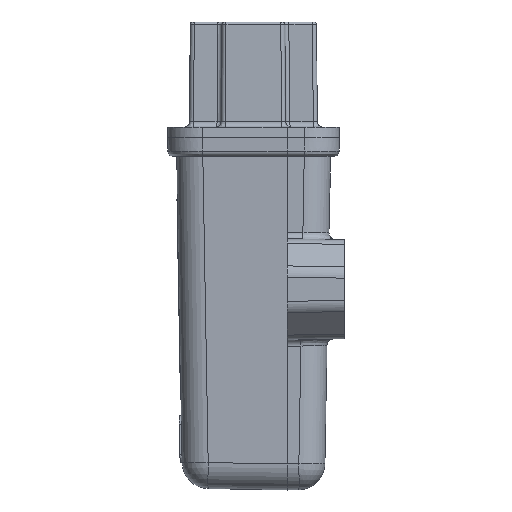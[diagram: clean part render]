
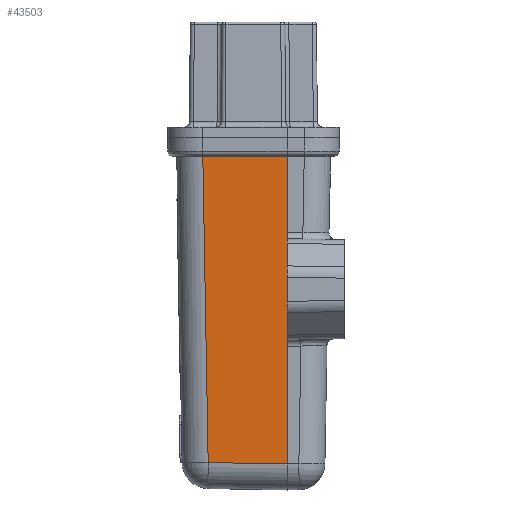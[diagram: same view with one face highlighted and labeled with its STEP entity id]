
A CAD part, left-side view. The second image highlights one B-rep face of the part: STEP entity #43503.
In plain terms, the highlighted planar face has unit normal (-1, 0.018, -0.017).
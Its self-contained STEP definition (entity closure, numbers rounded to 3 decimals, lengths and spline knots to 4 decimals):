
#2443=PLANE('',#45468);
#4164=FACE_OUTER_BOUND('',#6597,.T.);
#6597=EDGE_LOOP('',(#34732,#34733,#34734,#34735,#34736,#34737));
#10427=LINE('',#68450,#14202);
#10488=LINE('',#69662,#14263);
#10494=LINE('',#69681,#14269);
#10495=LINE('',#69683,#14270);
#10496=LINE('',#69685,#14271);
#10497=LINE('',#69686,#14272);
#14202=VECTOR('',#51639,0.8485);
#14263=VECTOR('',#51826,0.6264);
#14269=VECTOR('',#51848,0.8734);
#14270=VECTOR('',#51851,0.5622);
#14271=VECTOR('',#51852,2.2743);
#14272=VECTOR('',#51853,0.5868);
#19282=VERTEX_POINT('',#68123);
#19288=VERTEX_POINT('',#68139);
#19434=VERTEX_POINT('',#69659);
#19435=VERTEX_POINT('',#69661);
#19439=VERTEX_POINT('',#69675);
#19441=VERTEX_POINT('',#69684);
#24722=EDGE_CURVE('',#19282,#19288,#10427,.T.);
#24838=EDGE_CURVE('',#19435,#19434,#10488,.T.);
#24848=EDGE_CURVE('',#19439,#19282,#10494,.T.);
#24849=EDGE_CURVE('',#19288,#19435,#10495,.T.);
#24850=EDGE_CURVE('',#19441,#19434,#10496,.T.);
#24851=EDGE_CURVE('',#19439,#19441,#10497,.T.);
#34732=ORIENTED_EDGE('',*,*,#24722,.T.);
#34733=ORIENTED_EDGE('',*,*,#24849,.T.);
#34734=ORIENTED_EDGE('',*,*,#24838,.T.);
#34735=ORIENTED_EDGE('',*,*,#24850,.F.);
#34736=ORIENTED_EDGE('',*,*,#24851,.F.);
#34737=ORIENTED_EDGE('',*,*,#24848,.T.);
#43503=ADVANCED_FACE('',(#4164),#2443,.T.);
#45468=AXIS2_PLACEMENT_3D('',#69682,#51849,#51850);
#51639=DIRECTION('',(-0.017,0.,1.));
#51826=DIRECTION('',(0.017,1.,0.));
#51848=DIRECTION('',(-0.017,0.,1.));
#51849=DIRECTION('center_axis',(-1.,0.017,-0.017));
#51850=DIRECTION('ref_axis',(0.017,1.,0.));
#51851=DIRECTION('',(-0.017,0.,1.));
#51852=DIRECTION('',(-0.017,0.017,1.));
#51853=DIRECTION('',(0.017,1.,0.017));
#68123=CARTESIAN_POINT('',(-0.8685,0.075,-0.2723));
#68139=CARTESIAN_POINT('',(-0.8833,0.075,0.5761));
#68450=CARTESIAN_POINT('',(-0.8954,0.075,1.2682));
#69659=CARTESIAN_POINT('',(-0.8822,0.7013,1.1382));
#69661=CARTESIAN_POINT('',(-0.8931,0.075,1.1382));
#69662=CARTESIAN_POINT('',(-0.8836,0.6178,1.1382));
#69675=CARTESIAN_POINT('',(-0.8532,0.075,-1.1456));
#69681=CARTESIAN_POINT('',(-0.8954,0.075,1.2682));
#69682=CARTESIAN_POINT('Origin',(-0.8812,0.897,1.2763));
#69683=CARTESIAN_POINT('',(-0.8954,0.075,1.2682));
#69684=CARTESIAN_POINT('',(-0.8432,0.6616,-1.1354));
#69685=CARTESIAN_POINT('',(-0.8843,0.7035,1.2642));
#69686=CARTESIAN_POINT('',(-0.8436,0.6372,-1.1358));
